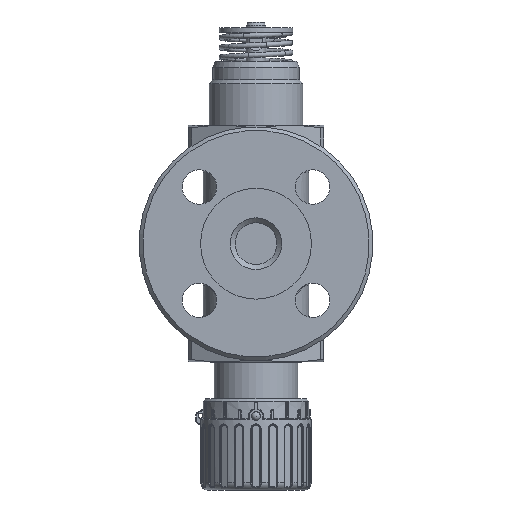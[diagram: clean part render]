
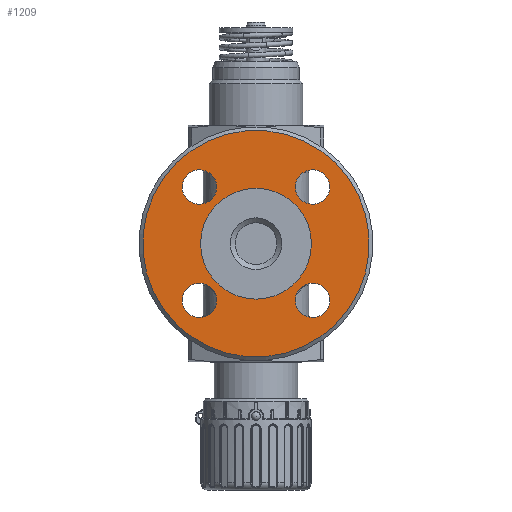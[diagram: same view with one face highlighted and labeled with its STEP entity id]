
A CAD part, left-side view. The second image highlights one B-rep face of the part: STEP entity #1209.
In plain terms, the highlighted planar face has unit normal (-1, 0, 0).
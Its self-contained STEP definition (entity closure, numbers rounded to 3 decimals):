
#323=FACE_BOUND('',#2522,.T.);
#324=FACE_BOUND('',#2523,.T.);
#325=FACE_BOUND('',#2524,.T.);
#326=FACE_BOUND('',#2525,.T.);
#327=FACE_BOUND('',#2526,.T.);
#328=FACE_BOUND('',#2527,.T.);
#1045=PLANE('',#9452);
#1209=ADVANCED_FACE('',(#323,#324,#325,#326,#327,#328),#1045,.T.);
#2522=EDGE_LOOP('',(#3830));
#2523=EDGE_LOOP('',(#3831));
#2524=EDGE_LOOP('',(#3832));
#2525=EDGE_LOOP('',(#3833));
#2526=EDGE_LOOP('',(#3834));
#2527=EDGE_LOOP('',(#3835));
#3232=CIRCLE('',#9408,22.5);
#3253=CIRCLE('',#9447,46.);
#3254=CIRCLE('',#9448,7.);
#3255=CIRCLE('',#9449,7.);
#3256=CIRCLE('',#9450,7.);
#3257=CIRCLE('',#9451,7.);
#3830=ORIENTED_EDGE('',*,*,#7338,.T.);
#3831=ORIENTED_EDGE('',*,*,#7311,.T.);
#3832=ORIENTED_EDGE('',*,*,#7339,.T.);
#3833=ORIENTED_EDGE('',*,*,#7340,.T.);
#3834=ORIENTED_EDGE('',*,*,#7341,.T.);
#3835=ORIENTED_EDGE('',*,*,#7342,.T.);
#6447=VERTEX_POINT('',#12935);
#6466=VERTEX_POINT('',#13009);
#6467=VERTEX_POINT('',#13011);
#6468=VERTEX_POINT('',#13013);
#6469=VERTEX_POINT('',#13015);
#6470=VERTEX_POINT('',#13017);
#7311=EDGE_CURVE('',#6447,#6447,#3232,.T.);
#7338=EDGE_CURVE('',#6466,#6466,#3253,.T.);
#7339=EDGE_CURVE('',#6467,#6467,#3254,.T.);
#7340=EDGE_CURVE('',#6468,#6468,#3255,.T.);
#7341=EDGE_CURVE('',#6469,#6469,#3256,.T.);
#7342=EDGE_CURVE('',#6470,#6470,#3257,.T.);
#9408=AXIS2_PLACEMENT_3D('',#12934,#10465,#10466);
#9447=AXIS2_PLACEMENT_3D('',#13008,#10547,#10548);
#9448=AXIS2_PLACEMENT_3D('',#13010,#10549,#10550);
#9449=AXIS2_PLACEMENT_3D('',#13012,#10551,#10552);
#9450=AXIS2_PLACEMENT_3D('',#13014,#10553,#10554);
#9451=AXIS2_PLACEMENT_3D('',#13016,#10555,#10556);
#9452=AXIS2_PLACEMENT_3D('',#13018,#10557,#10558);
#10465=DIRECTION('',(1.,0.,0.));
#10466=DIRECTION('',(0.,0.,1.));
#10547=DIRECTION('',(-1.,0.,0.));
#10548=DIRECTION('',(0.,0.707,-0.707));
#10549=DIRECTION('',(1.,0.,0.));
#10550=DIRECTION('',(0.,0.707,0.707));
#10551=DIRECTION('',(1.,0.,0.));
#10552=DIRECTION('',(0.,0.707,-0.707));
#10553=DIRECTION('',(1.,0.,0.));
#10554=DIRECTION('',(0.,-0.707,-0.707));
#10555=DIRECTION('',(1.,0.,0.));
#10556=DIRECTION('',(0.,-0.707,0.707));
#10557=DIRECTION('',(-1.,0.,0.));
#10558=DIRECTION('',(0.,0.707,-0.707));
#12934=CARTESIAN_POINT('',(-63.,0.,0.));
#12935=CARTESIAN_POINT('',(-63.,0.,22.5));
#13008=CARTESIAN_POINT('',(-63.,0.,0.));
#13009=CARTESIAN_POINT('',(-63.,32.527,-32.527));
#13010=CARTESIAN_POINT('',(-63.,22.981,-22.981));
#13011=CARTESIAN_POINT('',(-63.,27.931,-18.031));
#13012=CARTESIAN_POINT('',(-63.,-22.981,-22.981));
#13013=CARTESIAN_POINT('',(-63.,-18.031,-27.931));
#13014=CARTESIAN_POINT('',(-63.,-22.981,22.981));
#13015=CARTESIAN_POINT('',(-63.,-27.931,18.031));
#13016=CARTESIAN_POINT('',(-63.,22.981,22.981));
#13017=CARTESIAN_POINT('',(-63.,18.031,27.931));
#13018=CARTESIAN_POINT('',(-63.,0.,0.));
